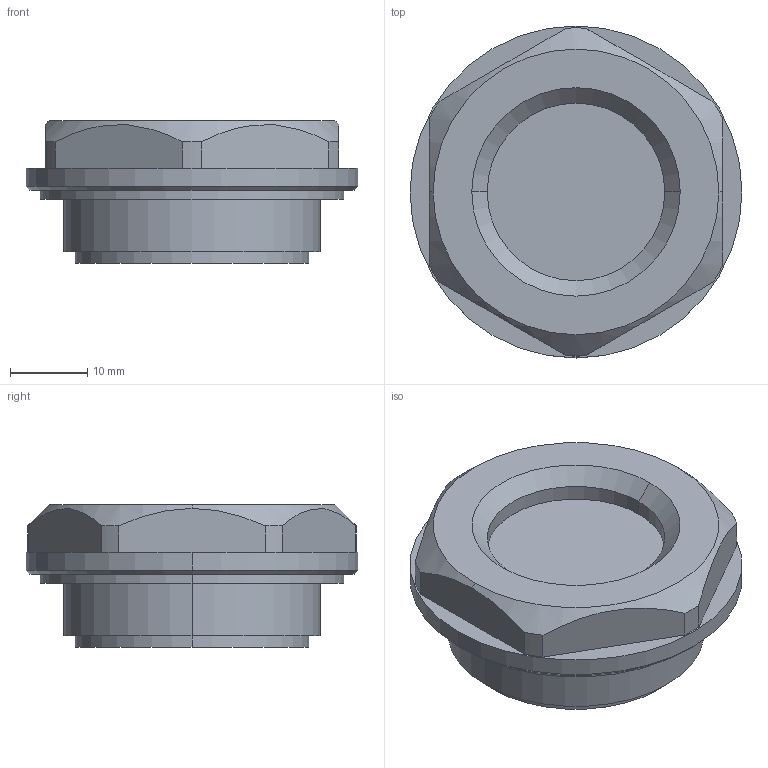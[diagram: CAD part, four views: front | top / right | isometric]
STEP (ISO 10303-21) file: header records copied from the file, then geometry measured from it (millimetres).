
FILE_DESCRIPTION (( 'STEP AP203' ), '1' );
FILE_NAME ('fg-21n.STEP', '2021-10-25T23:59:36', ( '' ), ( '' ), 'SwSTEP 2.0', 'SolidWorks 2020', '' );
FILE_SCHEMA (( 'CONFIG_CONTROL_DESIGN' ));
Length unit declared in the file: millimetre
Products named in the file (1): fg-21n
Bounding box: 43 x 43 x 18.5 mm (x, y, z)
Volume: 18236.1 mm3; surface area: 5139.5 mm2
Topology: 1 solids, 1 shells, 35 faces, 80 edges, 52 vertices
Faces by surface type: cylinder 16, plane 13, cone 6
Entity records: 1157 total; most frequent: CARTESIAN_POINT 264, DIRECTION 182, ORIENTED_EDGE 160, EDGE_CURVE 80, AXIS2_PLACEMENT_3D 74, VERTEX_POINT 52, EDGE_LOOP 40, CIRCLE 38
